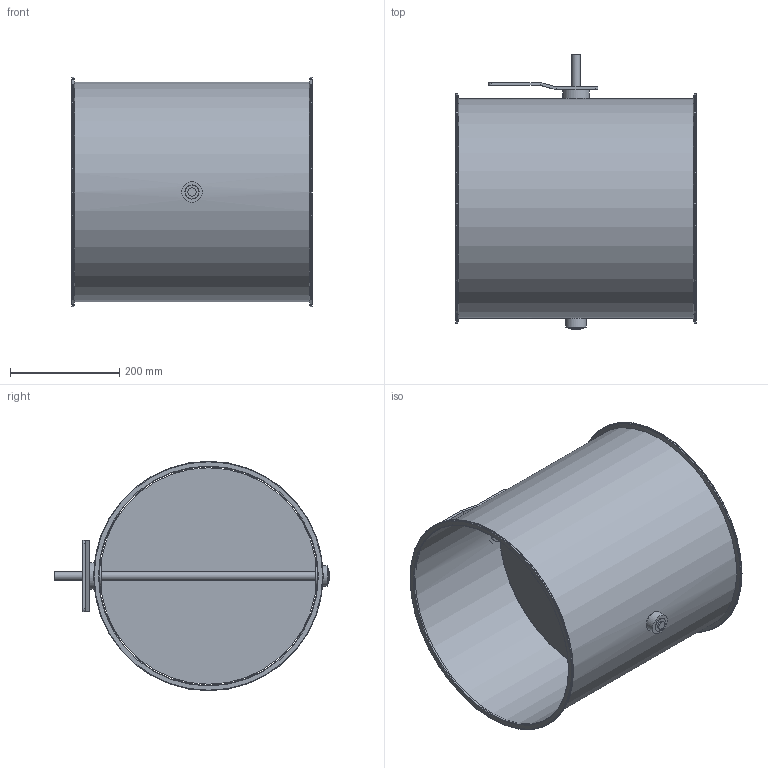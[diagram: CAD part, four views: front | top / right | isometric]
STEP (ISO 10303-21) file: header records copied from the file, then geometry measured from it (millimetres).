
FILE_DESCRIPTION(/* description */ (''),/* implementation_level */ '2;1');
FILE_NAME(/* name */ 'EA108-80B__400_L440_Belimo_Typ_GM.stp',/* time_stamp */ '2017-12-06T15:37:35+01:00',/* author */ (''),/* organization */ (''),/* preprocessor_version */ 'ST-DEVELOPER v11',/* originating_system */ 'SIEMENS UGS NX 6.0',/* authorisation */ '');
FILE_SCHEMA (('CONFIG_CONTROL_DESIGN'));
Length unit declared in the file: millimetre
Products named in the file (1): gars18E2j2gi
Bounding box: 440 x 504 x 420 mm (x, y, z)
Volume: 1052444.4 mm3; surface area: 1497414.1 mm2
Topology: 8 solids, 8 shells, 78 faces, 164 edges, 104 vertices
Faces by surface type: plane 36, cylinder 34, torus 6, cone 2
Full cylindrical faces by diameter (mm): 6.1 x6, 15 x3, 25 x3, 25.85 x2, 26 x2, 38 x3, 49 x1, 400 x1, 402 x1, 420 x2
Entity records: 2028 total; most frequent: CARTESIAN_POINT 363, DIRECTION 346, ORIENTED_EDGE 244, AXIS2_PLACEMENT_3D 149, EDGE_LOOP 140, EDGE_CURVE 122, FACE_BOUND 110, VERTEX_POINT 94
